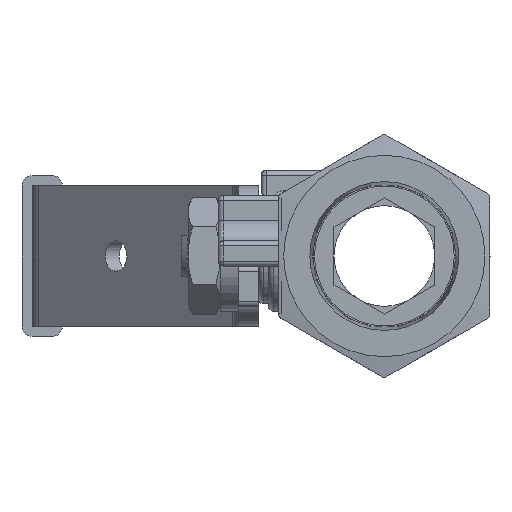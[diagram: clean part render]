
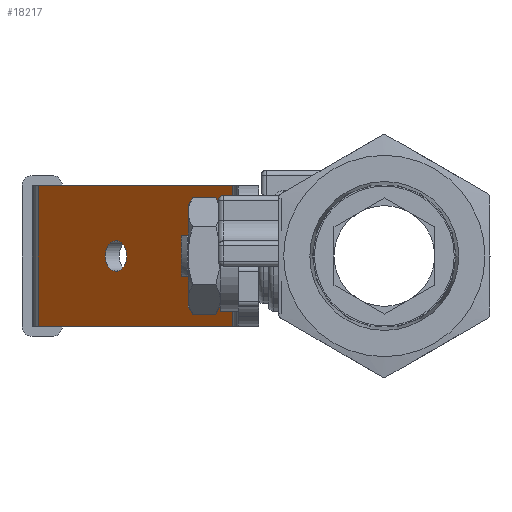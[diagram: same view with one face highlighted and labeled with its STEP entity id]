
A CAD part, left-side view. The second image highlights one B-rep face of the part: STEP entity #18217.
In plain terms, the highlighted planar face has unit normal (-0.716, 0.698, 0).
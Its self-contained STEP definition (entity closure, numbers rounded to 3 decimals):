
#17393=CARTESIAN_POINT('',(38.568,21.897,14.));
#17394=VERTEX_POINT('',#17393);
#17412=CARTESIAN_POINT('',(38.568,21.897,0.0));
#17413=VERTEX_POINT('',#17412);
#17421=CARTESIAN_POINT('',(38.568,21.897,0.0));
#17422=DIRECTION('',(0.0,0.0,1.0));
#17423=VECTOR('',#17422,14.);
#17424=LINE('',#17421,#17423);
#17425=EDGE_CURVE('',#17413,#17394,#17424,.T.);
#17468=CARTESIAN_POINT('',(19.746,2.603,14.));
#17469=VERTEX_POINT('',#17468);
#17470=CARTESIAN_POINT('',(19.746,2.603,14.));
#17471=DIRECTION('',(0.698,0.716,0.0));
#17472=VECTOR('',#17471,26.954);
#17473=LINE('',#17470,#17472);
#17474=EDGE_CURVE('',#17469,#17394,#17473,.T.);
#17776=CARTESIAN_POINT('',(19.746,2.603,0.0));
#17777=VERTEX_POINT('',#17776);
#17794=CARTESIAN_POINT('',(19.746,2.603,14.));
#17795=DIRECTION('',(0.0,0.0,-1.0));
#17796=VECTOR('',#17795,14.);
#17797=LINE('',#17794,#17796);
#17798=EDGE_CURVE('',#17469,#17777,#17797,.T.);
#18186=CARTESIAN_POINT('',(31.029,14.168,8.5));
#18187=VERTEX_POINT('',#18186);
#18188=CARTESIAN_POINT('',(31.029,14.168,7.));
#18189=DIRECTION('',(0.716,-0.698,0.0));
#18190=DIRECTION('',(0.0,0.0,1.0));
#18191=AXIS2_PLACEMENT_3D('',#18188,#18189,#18190);
#18192=CIRCLE('',#18191,1.5);
#18193=EDGE_CURVE('',#18187,#18187,#18192,.T.);
#18198=CARTESIAN_POINT('',(19.157,2.,0.0));
#18199=DIRECTION('',(-0.716,0.698,0.0));
#18200=DIRECTION('',(0.0,0.0,1.0));
#18201=AXIS2_PLACEMENT_3D('',#18198,#18199,#18200);
#18202=PLANE('',#18201);
#18203=ORIENTED_EDGE('',*,*,#17425,.F.);
#18204=CARTESIAN_POINT('',(38.568,21.897,0.0));
#18205=DIRECTION('',(-0.698,-0.716,0.0));
#18206=VECTOR('',#18205,26.954);
#18207=LINE('',#18204,#18206);
#18208=EDGE_CURVE('',#17413,#17777,#18207,.T.);
#18209=ORIENTED_EDGE('',*,*,#18208,.T.);
#18210=ORIENTED_EDGE('',*,*,#17798,.F.);
#18211=ORIENTED_EDGE('',*,*,#17474,.T.);
#18212=EDGE_LOOP('',(#18203,#18209,#18210,#18211));
#18213=FACE_OUTER_BOUND('',#18212,.T.);
#18214=ORIENTED_EDGE('',*,*,#18193,.T.);
#18215=EDGE_LOOP('',(#18214));
#18216=FACE_BOUND('',#18215,.T.);
#18217=ADVANCED_FACE('',(#18213,#18216),#18202,.T.);
